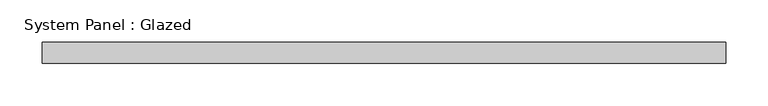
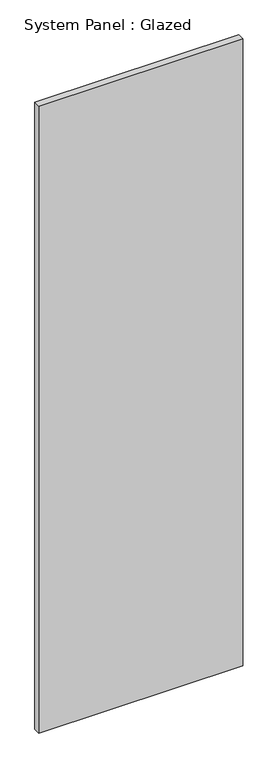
"""IFC4 building model written with IfcOpenShell, lengths in millimetres: plate geometry, System Panel : Glazed."""

import ifcopenshell
import ifcopenshell.guid

model = None  # the IFC model being written
_history = None  # IfcOwnerHistory: only IFC2X3 demands one
_inside = {}  # id of a spatial element -> (the spatial element, [elements in it])
_under = {}  # id of a project, library or spatial element -> (it, [spatial elements below it])
_declared = {}  # id of a project -> (the project, [libraries it declares])
_typed = {}  # id of a type object -> (the type object, [elements of that type])
_made_of = {}  # id of a material, layer set ... -> (it, [elements and type objects made of it])


def new_model(schema):
    """Start an empty IFC model of exactly this schema.

    Asked for "IFC4X3", IfcOpenShell would pick the latest addendum, in which some entities
    have other attributes; the version numbers below select the first issue.
    IFC2X3 requires an IfcOwnerHistory on every rooted entity: one is made here for all.
    """
    global model, _history
    if schema == "IFC4X3":
        model = ifcopenshell.file(schema_version=(4, 3, 0, 0))
    else:
        model = ifcopenshell.file(schema=schema)
    _inside.clear()
    _under.clear()
    _declared.clear()
    _typed.clear()
    _made_of.clear()
    _history = None
    if model.schema == "IFC2X3":
        org = make("IfcOrganization", Name="unknown")
        user = make(
            "IfcPersonAndOrganization",
            ThePerson=make("IfcPerson", FamilyName="unknown"),
            TheOrganization=org,
        )
        app = make(
            "IfcApplication",
            ApplicationDeveloper=org,
            Version="unknown",
            ApplicationFullName="unknown",
            ApplicationIdentifier="unknown",
        )
        _history = make(
            "IfcOwnerHistory",
            OwningUser=user,
            OwningApplication=app,
            ChangeAction="ADDED",
            CreationDate=0,
        )
    return model


def make(cls, **values):
    """One entity of the class cls with the attributes given. An attribute that is None is left unset."""
    return model.create_entity(
        cls, **{name: value for name, value in values.items() if value is not None}
    )


def rooted(cls, **values):
    """An entity with a GlobalId (a new one), such as an element, a storey or a relation."""
    return make(cls, GlobalId=ifcopenshell.guid.new(), OwnerHistory=_history, **values)


def si_unit(unit_type, name, prefix=None):
    """IfcSIUnit, for example si_unit("LENGTHUNIT", "METRE", prefix="MILLI")."""
    return make("IfcSIUnit", UnitType=unit_type, Prefix=prefix, Name=name)


def assignment(units):
    """IfcUnitAssignment: the units of a project."""
    return None if units is None else make("IfcUnitAssignment", Units=units)


def point(xyz):
    """IfcCartesianPoint."""
    return None if xyz is None else make("IfcCartesianPoint", Coordinates=xyz)


def direction(xyz):
    """IfcDirection."""
    return None if xyz is None else make("IfcDirection", DirectionRatios=xyz)


def frame(location, z_axis=None, x_axis=None):
    """IfcAxis2Placement3D, a coordinate frame: its origin and axes. An axis left out is left unset."""
    return make(
        "IfcAxis2Placement3D",
        Location=point(location),
        Axis=direction(z_axis),
        RefDirection=direction(x_axis),
    )


def origin():
    """The frame at (0, 0, 0) with its axes left unset."""
    return frame((0.0, 0.0, 0.0))


def origin_with_axes():
    """The frame at (0, 0, 0) with the z axis (0, 0, 1) and the x axis (1, 0, 0) written out."""
    return frame((0.0, 0.0, 0.0), z_axis=(0.0, 0.0, 1.0), x_axis=(1.0, 0.0, 0.0))


def place(relative_to, where):
    """IfcLocalPlacement: puts the frame where relative to a parent placement (None: the world)."""
    return make(
        "IfcLocalPlacement", PlacementRelTo=relative_to, RelativePlacement=where
    )


def context(
    kind, dimensions, precision=None, world=None, true_north=None, identifier=None
):
    """IfcGeometricRepresentationContext, for example the 3D "Model" context."""
    return make(
        "IfcGeometricRepresentationContext",
        ContextIdentifier=identifier,
        ContextType=kind,
        CoordinateSpaceDimension=dimensions,
        Precision=precision,
        WorldCoordinateSystem=world,
        TrueNorth=true_north,
    )


def project(units=None, contexts=None):
    """IfcProject with its units and contexts."""
    return rooted(
        "IfcProject",
        Name="project",
        RepresentationContexts=contexts,
        UnitsInContext=assignment(units),
    )


def spatial(cls, under=None, at=None, **own):
    """A site, building, storey or space (cls), placed at a placement, below another one or the project."""
    s = rooted(cls, ObjectPlacement=at, **own)
    if under is not None:
        _under.setdefault(under.id(), (under, []))[1].append(s)
    return s


def polyline(points):
    """IfcPolyline through the points."""
    return make("IfcPolyline", Points=[point(p) for p in points])


def outline(outer, holes=None, kind="AREA"):
    """IfcArbitraryClosedProfileDef: a profile drawn as a closed curve; with holes, ...WithVoids."""
    if holes is None:
        return make("IfcArbitraryClosedProfileDef", ProfileType=kind, OuterCurve=outer)
    return make(
        "IfcArbitraryProfileDefWithVoids",
        ProfileType=kind,
        OuterCurve=outer,
        InnerCurves=holes,
    )


def extrude(swept, where, along, depth):
    """IfcExtrudedAreaSolid: the profile swept, set in the frame where, extruded along a direction by depth."""
    return make(
        "IfcExtrudedAreaSolid",
        SweptArea=swept,
        Position=where,
        ExtrudedDirection=direction(along),
        Depth=depth,
    )


def shape(context_of_items, identifier, shape_type, items):
    """IfcShapeRepresentation: the items that make up one representation, for example the "Body"."""
    return make(
        "IfcShapeRepresentation",
        ContextOfItems=context_of_items,
        RepresentationIdentifier=identifier,
        RepresentationType=shape_type,
        Items=items,
    )


def source(mapping_origin, context_of_items, identifier, shape_type, items):
    """IfcRepresentationMap: a shape defined once, which mapped items show again and again."""
    return make(
        "IfcRepresentationMap",
        MappingOrigin=mapping_origin,
        MappedRepresentation=shape(context_of_items, identifier, shape_type, items),
    )


def transform(
    local_origin,
    x_axis=None,
    y_axis=None,
    z_axis=None,
    scale=None,
    scale2=None,
    scale3=None,
    uniform=True,
):
    """IfcCartesianTransformationOperator3D, or its non-uniform kind. x_axis, y_axis, z_axis: its Axis1, 2, 3."""
    if uniform:
        return make(
            "IfcCartesianTransformationOperator3D",
            Axis1=direction(x_axis),
            Axis2=direction(y_axis),
            LocalOrigin=point(local_origin),
            Scale=scale,
            Axis3=direction(z_axis),
        )
    return make(
        "IfcCartesianTransformationOperator3DnonUniform",
        Axis1=direction(x_axis),
        Axis2=direction(y_axis),
        LocalOrigin=point(local_origin),
        Scale=scale,
        Axis3=direction(z_axis),
        Scale2=scale2,
        Scale3=scale3,
    )


def mapped(mapping_source, mapping_target):
    """IfcMappedItem: shows the shape of a source again, moved by a transform."""
    return make(
        "IfcMappedItem", MappingSource=mapping_source, MappingTarget=mapping_target
    )


def made_of(thing, what):
    """Note that an element or type object is made of a material, layer set ...; save() writes the relation."""
    if what is not None:
        _made_of.setdefault(what.id(), (what, []))[1].append(thing)
    return thing


def element(
    cls,
    number,
    at=None,
    inside=None,
    cuts=None,
    type_object=None,
    material=None,
    context=None,
    identifier="Body",
    shape_type=None,
    held_by="IfcProductDefinitionShape",
    body=None,
    shapes=None,
    **own,
):
    """One element of the class cls, such as IfcWall. Its Tag is "e" and its number.

    at: its placement. inside: the storey or other place that contains it. cuts: it is an
    opening in that element (IfcRelVoidsElement). A single representation is given by context,
    identifier, shape_type and body (its items); several are given by shapes. held_by: the class
    of the entity that holds the representations. save() writes the other relations.
    """
    e = rooted(cls, Tag="e%d" % number, ObjectPlacement=at, **own)
    if body is not None:
        shapes = [shape(context, identifier, shape_type, body)]
    if shapes is not None:
        e.Representation = make(held_by, Representations=shapes)
    if inside is not None:
        _inside.setdefault(inside.id(), (inside, []))[1].append(e)
    if cuts is not None:
        rooted(
            "IfcRelVoidsElement", RelatingBuildingElement=cuts, RelatedOpeningElement=e
        )
    if type_object is not None:
        _typed.setdefault(type_object.id(), (type_object, []))[1].append(e)
    return made_of(e, material)


def aggregate(whole, parts):
    """IfcRelAggregates: a whole, such as a stair, and the parts it consists of."""
    return rooted("IfcRelAggregates", RelatingObject=whole, RelatedObjects=parts)


def save(model, path):
    """Write the relations noted so far, then the file.

    IfcRelAggregates (storeys below a building ...), IfcRelContainedInSpatialStructure (elements
    in a storey), IfcRelDefinesByType, IfcRelAssociatesMaterial and IfcRelDeclares: one each for
    every whole, place, type object, material and project.
    """
    for whole, parts in _under.values():
        aggregate(whole, parts)
    for where, things in _inside.values():
        rooted(
            "IfcRelContainedInSpatialStructure",
            RelatedElements=things,
            RelatingStructure=where,
        )
    for kind, things in _typed.values():
        rooted("IfcRelDefinesByType", RelatedObjects=things, RelatingType=kind)
    for what, things in _made_of.values():
        rooted("IfcRelAssociatesMaterial", RelatedObjects=things, RelatingMaterial=what)
    for by, libraries in _declared.values():
        rooted("IfcRelDeclares", RelatingContext=by, RelatedDefinitions=libraries)
    model.write(path)


def system_panel_glazed_3f411a17(model_context):
    return source(origin(), model_context, "Body", "SweptSolid", [
        extrude(outline(polyline([(406.4, 19.05), (-406.4, 19.05), (-406.4, 44.45), (406.4, 44.45), (406.4, 19.05)])), origin_with_axes(), (0.0, 0.0, 1.0), 2640.780647),
    ])


if __name__ == "__main__":
    model = new_model("IFC4")
    model_context = context("Model", 3, world=origin())
    ifc_project = project(units=[si_unit("LENGTHUNIT", "METRE", prefix="MILLI")], contexts=[model_context])
    site = spatial("IfcSite", under=ifc_project)
    building = spatial("IfcBuilding", under=site)
    placement = place(None, origin())
    system_panel_glazed_shape = system_panel_glazed_3f411a17(model_context)
    element("IfcPlate", 1, ObjectType="System Panel : Glazed", at=placement, inside=building, context=model_context, shape_type="MappedRepresentation", body=[
        mapped(system_panel_glazed_shape, transform((0.0, 0.0, 0.0), x_axis=(1.0, 0.0, 0.0), y_axis=(0.0, 1.0, 0.0), z_axis=(0.0, 0.0, 1.0))),
    ])
    save(model, "model.ifc")
